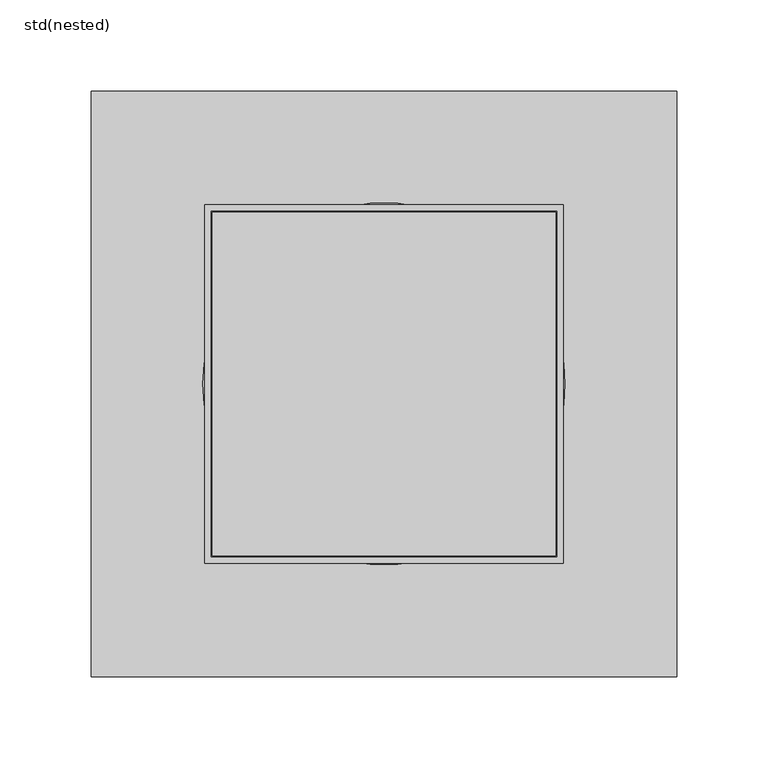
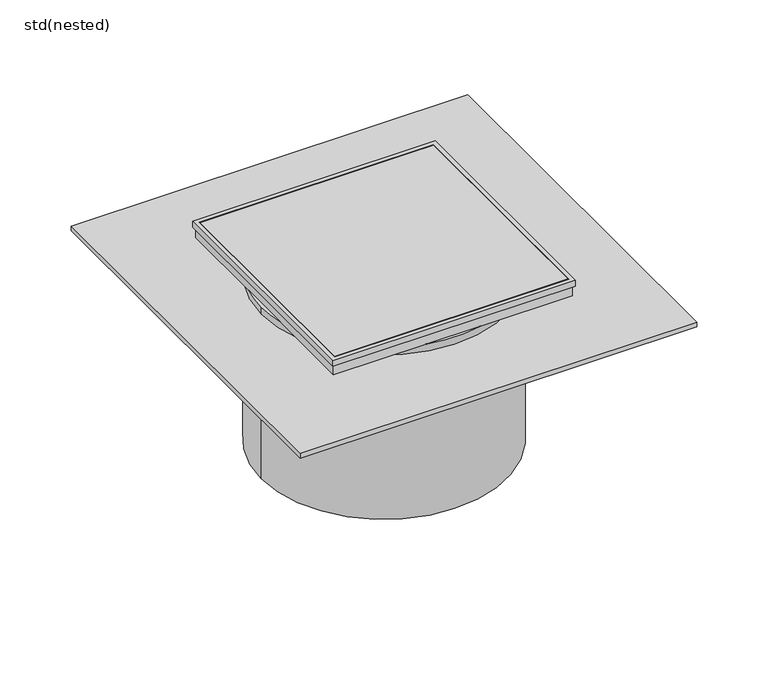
"""IFC4 building model written with IfcOpenShell, lengths in millimetres: sanitary terminal geometry, ZZZ_do not use_PF_ST_WPB_sanded flange slotted gratings for Industrial DN100_CR 218_ACO : std(nested)."""

from ifc_helpers import new_model, si_unit, frame, origin, place, context, project, spatial, polyline, circle_curve, outline, extrude, source, transform, mapped, element, save
from ifc_brep_helpers import plane_surface, cylinder_surface, advanced_brep


def std_nested_25571da1(model_context):
    return source(origin(), model_context, "Body", "SolidModel", [
        extrude(outline(polyline([(160.0, 160.0), (160.0, -160.0), (-160.0, -160.0), (-160.0, 160.0), (160.0, 160.0)])), frame((0.0, 0.0, -24.0), z_axis=(0.0, 0.0, 1.0), x_axis=(1.0, 0.0, 0.0)), (0.0, 0.0, 1.0), 4.0),
        advanced_brep(
        [(-99.0, 0.0, -160.0), (99.0, 0.0, -160.0), (99.0, 0.0, -48.5), (-99.0, 0.0, -48.5), (96.5, -22.107691, -13.5), (99.0, 0.0, -13.5), (96.5, 22.107691, -13.5), (-22.107691, -96.5, -13.5), (22.107691, -96.5, -13.5), (-99.0, 0.0, -13.5), (-96.5, -22.107691, -13.5), (-96.5, 22.107691, -13.5), (22.107691, 96.5, -13.5), (-22.107691, 96.5, -13.5), (98.0, 98.0, -5.0), (98.0, 98.0, 0.0), (98.0, -98.0, 0.0), (98.0, -98.0, -5.0), (96.5, 96.5, -13.5), (96.5, 96.5, -5.0), (96.5, -96.5, -5.0), (96.5, -96.5, -13.5), (94.5, 94.5, 0.0), (94.5, 94.5, -11.5), (94.5, -94.5, -11.5), (94.5, -94.5, 0.0), (-98.0, -98.0, 0.0), (-98.0, -98.0, -5.0), (-96.5, -96.5, -5.0), (-96.5, -96.5, -13.5), (-94.5, -94.5, -11.5), (-94.5, -94.5, 0.0), (-98.0, 98.0, 0.0), (-98.0, 98.0, -5.0), (-96.5, 96.5, -5.0), (-96.5, 96.5, -13.5), (-94.5, 94.5, -11.5), (-94.5, 94.5, 0.0), (94.0, -94.0, -11.5), (-94.0, -94.0, -11.5), (-94.0, 94.0, -11.5), (94.0, 94.0, -11.5), (-94.0, -94.0, 0.0), (94.0, -94.0, 0.0), (94.0, 94.0, 0.0), (-94.0, 94.0, 0.0)],
        [
            (0, 1, circle_curve(frame((0.0, 0.0, -160.0), z_axis=(0.0, 0.0, -1.0), x_axis=(1.0, 0.0, 0.0)), 99.0)),
            (1, 0, circle_curve(frame((0.0, 0.0, -160.0), z_axis=(0.0, 0.0, -1.0), x_axis=(1.0, 0.0, 0.0)), 99.0)),
            (1, 2),
            (2, 3, circle_curve(frame((0.0, 0.0, -48.5), z_axis=(0.0, 0.0, -1.0), x_axis=(1.0, 0.0, 0.0)), 99.0)),
            (3, 0),
            (3, 2, circle_curve(frame((0.0, 0.0, -48.5), z_axis=(0.0, 0.0, -1.0), x_axis=(1.0, 0.0, 0.0)), 99.0)),
            (4, 5, circle_curve(frame((0.0, 0.0, -13.5), z_axis=(0.0, 0.0, 1.0), x_axis=(1.0, 0.0, 0.0)), 99.0)),
            (5, 6, circle_curve(frame((0.0, 0.0, -13.5), z_axis=(0.0, 0.0, 1.0), x_axis=(1.0, 0.0, 0.0)), 99.0)),
            (6, 4),
            (7, 8, circle_curve(frame((0.0, 0.0, -13.5), z_axis=(0.0, 0.0, 1.0), x_axis=(1.0, 0.0, 0.0)), 99.0)),
            (8, 7),
            (9, 10, circle_curve(frame((0.0, 0.0, -13.5), z_axis=(0.0, 0.0, 1.0), x_axis=(1.0, 0.0, 0.0)), 99.0)),
            (10, 11),
            (11, 9, circle_curve(frame((0.0, 0.0, -13.5), z_axis=(0.0, 0.0, 1.0), x_axis=(1.0, 0.0, 0.0)), 99.0)),
            (12, 13, circle_curve(frame((0.0, 0.0, -13.5), z_axis=(0.0, 0.0, 1.0), x_axis=(1.0, 0.0, 0.0)), 99.0)),
            (13, 12),
            (9, 3),
            (2, 5),
            (4, 8, circle_curve(frame((0.0, 0.0, -13.5), z_axis=(0.0, 0.0, -1.0), x_axis=(1.0, 0.0, 0.0)), 99.0)),
            (7, 10, circle_curve(frame((0.0, 0.0, -13.5), z_axis=(0.0, 0.0, -1.0), x_axis=(1.0, 0.0, 0.0)), 99.0)),
            (11, 13, circle_curve(frame((0.0, 0.0, -13.5), z_axis=(0.0, 0.0, -1.0), x_axis=(1.0, 0.0, 0.0)), 99.0)),
            (12, 6, circle_curve(frame((0.0, 0.0, -13.5), z_axis=(0.0, 0.0, -1.0), x_axis=(1.0, 0.0, 0.0)), 99.0)),
            (14, 15),
            (15, 16),
            (16, 17),
            (17, 14),
            (18, 19),
            (19, 20),
            (20, 21),
            (21, 4),
            (6, 18),
            (22, 23),
            (23, 24),
            (24, 25),
            (25, 22),
            (16, 26),
            (26, 27),
            (27, 17),
            (20, 28),
            (28, 29),
            (29, 7),
            (8, 21),
            (24, 30),
            (30, 31),
            (31, 25),
            (26, 32),
            (32, 33),
            (33, 27),
            (28, 34),
            (34, 35),
            (35, 11),
            (10, 29),
            (30, 36),
            (36, 37),
            (37, 31),
            (15, 32),
            (37, 22),
            (14, 33),
            (19, 34),
            (18, 12),
            (13, 35),
            (23, 36),
            (38, 39),
            (39, 40),
            (40, 41),
            (41, 38),
            (42, 43),
            (43, 44),
            (44, 45),
            (45, 42),
            (42, 39),
            (38, 43),
            (41, 44),
            (40, 45),
        ],
        [
            plane_surface(frame((99.0, 0.0, -160.0), z_axis=(0.0, 0.0, -1.0), x_axis=(0.0, -1.0, 0.0))),
            cylinder_surface(frame((0.0, 0.0, -160.0), z_axis=(0.0, 0.0, 1.0), x_axis=(1.0, 0.0, 0.0)), 99.0),
            plane_surface(frame((99.0, 0.0, -13.5), z_axis=(0.0, 0.0, 1.0), x_axis=(0.0, 1.0, 0.0))),
            cylinder_surface(frame((0.0, 0.0, -48.5), z_axis=(0.0, 0.0, 1.0), x_axis=(1.0, 0.0, 0.0)), 99.0),
            plane_surface(frame((98.0, 98.0, 0.0), z_axis=(1.0, 0.0, 0.0), x_axis=(0.0, -1.0, 0.0))),
            plane_surface(frame((96.5, 96.5, -5.0), z_axis=(1.0, 0.0, 0.0), x_axis=(0.0, -1.0, 0.0))),
            plane_surface(frame((94.5, 94.5, -11.5), z_axis=(-1.0, 0.0, 0.0), x_axis=(0.0, -1.0, 0.0))),
            plane_surface(frame((98.0, -98.0, 0.0), z_axis=(0.0, -1.0, 0.0), x_axis=(-1.0, 0.0, 0.0))),
            plane_surface(frame((96.5, -96.5, -5.0), z_axis=(0.0, -1.0, 0.0), x_axis=(-1.0, 0.0, 0.0))),
            plane_surface(frame((94.5, -94.5, -11.5), z_axis=(0.0, 1.0, 0.0), x_axis=(-1.0, 0.0, 0.0))),
            plane_surface(frame((-98.0, -98.0, 0.0), z_axis=(-1.0, 0.0, 0.0), x_axis=(0.0, 1.0, 0.0))),
            plane_surface(frame((-96.5, -96.5, -5.0), z_axis=(-1.0, 0.0, 0.0), x_axis=(0.0, 1.0, 0.0))),
            plane_surface(frame((-94.5, -94.5, -11.5), z_axis=(1.0, 0.0, 0.0), x_axis=(0.0, 1.0, 0.0))),
            plane_surface(frame((-94.5, 94.5, 0.0), z_axis=(0.0, 0.0, 1.0), x_axis=(1.0, 0.0, 0.0))),
            plane_surface(frame((-98.0, 98.0, 0.0), z_axis=(0.0, 1.0, 0.0), x_axis=(1.0, 0.0, 0.0))),
            plane_surface(frame((-98.0, 98.0, -5.0), z_axis=(0.0, 0.0, -1.0), x_axis=(1.0, 0.0, 0.0))),
            plane_surface(frame((-96.5, 96.5, -5.0), z_axis=(0.0, 1.0, 0.0), x_axis=(1.0, 0.0, 0.0))),
            plane_surface(frame((-96.5, 96.5, -13.5), z_axis=(0.0, 0.0, -1.0), x_axis=(1.0, 0.0, 0.0))),
            plane_surface(frame((0.0, 0.0, -11.5), z_axis=(0.0, 0.0, 1.0), x_axis=(1.0, 0.0, 0.0))),
            plane_surface(frame((-94.5, 94.5, -11.5), z_axis=(0.0, -1.0, 0.0), x_axis=(1.0, 0.0, 0.0))),
            plane_surface(frame((94.0, -94.0, 0.0), z_axis=(0.0, 0.0, 1.0), x_axis=(1.0, 0.0, 0.0))),
            plane_surface(frame((-94.0, -94.0, 0.0), z_axis=(0.0, -1.0, 0.0), x_axis=(0.0, 0.0, -1.0))),
            plane_surface(frame((94.0, -94.0, 0.0), z_axis=(1.0, 0.0, 0.0), x_axis=(0.0, 0.0, -1.0))),
            plane_surface(frame((94.0, 94.0, 0.0), z_axis=(0.0, 1.0, 0.0), x_axis=(0.0, 0.0, -1.0))),
            plane_surface(frame((-94.0, 94.0, 0.0), z_axis=(-1.0, 0.0, 0.0), x_axis=(0.0, 0.0, -1.0))),
        ],
        [
            (0, [[1, 2]]),
            (1, [[-2, 3, 4, 5]]),
            (1, [[-1, -5, 6, -3]]),
            (2, [[7, 8, 9]]),
            (2, [[10, 11]]),
            (2, [[12, 13, 14]]),
            (2, [[15, 16]]),
            (3, [[17, -4, 18, -7, 19, -10, 20, -12]]),
            (3, [[-17, -14, 21, -15, 22, -8, -18, -6]]),
            (4, [[23, 24, 25, 26]]),
            (5, [[27, 28, 29, 30, -9, 31]]),
            (6, [[32, 33, 34, 35]]),
            (7, [[-25, 36, 37, 38]]),
            (8, [[-29, 39, 40, 41, -11, 42]]),
            (9, [[-34, 43, 44, 45]]),
            (10, [[-37, 46, 47, 48]]),
            (11, [[-40, 49, 50, 51, -13, 52]]),
            (12, [[-44, 53, 54, 55]]),
            (13, [[-24, 56, -46, -36], [-35, -45, -55, 57]]),
            (14, [[-23, 58, -47, -56]]),
            (15, [[-26, -38, -48, -58], [-28, 59, -49, -39]]),
            (16, [[-27, 60, -16, 61, -50, -59]]),
            (17, [[-30, -42, -19]]),
            (17, [[-31, -22, -60]]),
            (17, [[-41, -52, -20]]),
            (17, [[-51, -61, -21]]),
            (18, [[-33, 62, -53, -43], [63, 64, 65, 66]]),
            (19, [[-32, -57, -54, -62]]),
            (20, [[67, 68, 69, 70]]),
            (21, [[-67, 71, -63, 72]]),
            (22, [[-68, -72, -66, 73]]),
            (23, [[-69, -73, -65, 74]]),
            (24, [[-70, -74, -64, -71]]),
        ],
    ),
    ])


if __name__ == "__main__":
    model = new_model("IFC4")
    model_context = context("Model", 3, world=origin())
    ifc_project = project(units=[si_unit("LENGTHUNIT", "METRE", prefix="MILLI")], contexts=[model_context])
    site = spatial("IfcSite", under=ifc_project)
    building = spatial("IfcBuilding", under=site)
    placement = place(None, origin())
    std_nested_shape = std_nested_25571da1(model_context)
    element("IfcSanitaryTerminal", 1, ObjectType="ZZZ_do not use_PF_ST_WPB_sanded flange slotted gratings for Industrial DN100_CR 218_ACO : std(nested)", at=placement, inside=building, context=model_context, shape_type="MappedRepresentation", body=[
        mapped(std_nested_shape, transform((0.0, 0.0, 0.0), x_axis=(1.0, 0.0, 0.0), y_axis=(0.0, 1.0, 0.0), z_axis=(0.0, 0.0, 1.0))),
    ])
    save(model, "model.ifc")
